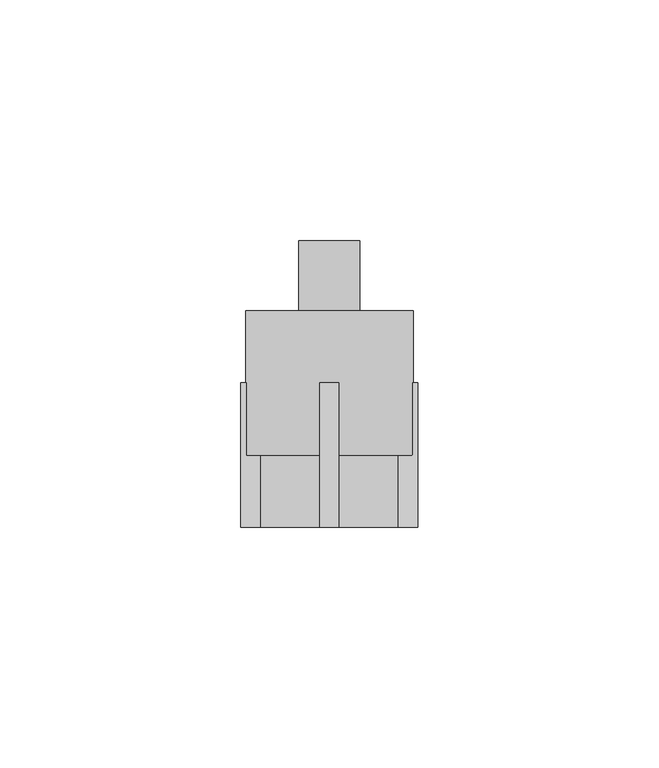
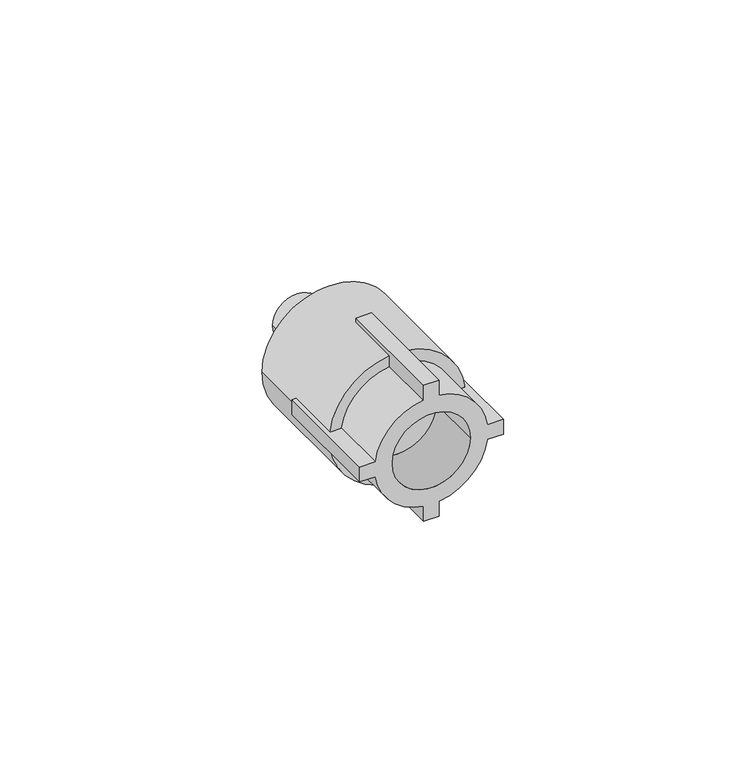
"""IFC4 building model written with IfcOpenShell, lengths in millimetres: pipe fitting geometry, EGB_VASEN_ PPR_Entronque rosca macho WXR101 : Entronque rosca macho WXR101."""

from ifc_helpers import new_model, si_unit, point, frame, origin, origin_2d, place, context, project, spatial, polyline, circle_curve, trimmed, segment, composite_curve, outline, extrude, source, transform, mapped, element, save
from ifc_brep_helpers import plane_surface, cylinder_surface, revolved_surface, advanced_brep


def pipe_fitting_84b2c451(model_context):
    return source(origin(), model_context, "Body", "SolidModel", [
        advanced_brep(
        [(2.0, -15.0, 18.4), (-2.0, -15.0, 18.4), (-2.0, -15.0, 14.3614066), (-14.3614066, -15.0, 2.0), (-18.4, -15.0, 2.0), (-18.4, -15.0, -2.0), (-14.3614066, -15.0, -2.0), (-2.0, -15.0, -14.3614066), (-2.0, -15.0, -18.4), (2.0, -15.0, -18.4), (2.0, -15.0, -14.3614066), (14.3614066, -15.0, -2.0), (18.4, -15.0, -2.0), (18.4, -15.0, 2.0), (14.3614066, -15.0, 2.0), (2.0, -15.0, 14.3614066), (-10.0, -15.0, 0.0), (10.0, -15.0, 0.0), (-2.0, 15.0, 18.4), (2.0, 15.0, 18.4), (2.0, 15.0, 17.2846753), (-2.0, 15.0, 17.2846753), (2.0, 15.0, -18.4), (-2.0, 15.0, -18.4), (-2.0, 15.0, -17.2846753), (2.0, 15.0, -17.2846753), (18.4, 15.0, 2.0), (18.4, 15.0, -2.0), (17.2846753, 15.0, -2.0), (17.4, 15.0, 0.0), (17.2846753, 15.0, 2.0), (-18.4, 15.0, -2.0), (-18.4, 15.0, 2.0), (-17.2846753, 15.0, 2.0), (-17.4, 15.0, 0.0), (-17.2846753, 15.0, -2.0), (2.0, 0.0, 14.3614066), (2.0, 0.0, 17.2846753), (-2.0, 0.0, 17.2846753), (-2.0, 0.0, 14.3614066), (2.0, 0.0, -17.2846753), (2.0, 0.0, -14.3614066), (-2.0, 0.0, -14.3614066), (-2.0, 0.0, -17.2846753), (14.3614066, 0.0, -2.0), (17.2846753, 0.0, -2.0), (17.2846753, 0.0, 2.0), (14.3614066, 0.0, 2.0), (-17.2846753, 0.0, -2.0), (-14.3614066, 0.0, -2.0), (-14.3614066, 0.0, 2.0), (-17.2846753, 0.0, 2.0), (-10.0, 0.0, 0.0), (10.0, 0.0, 0.0), (-17.4, 30.0, 0.0), (17.4, 30.0, 0.0)],
        [
            (0, 1),
            (1, 2),
            (2, 3, circle_curve(frame((0.0, -15.0, 0.0), z_axis=(0.0, -1.0, 0.0), x_axis=(1.0, 0.0, 0.0)), 14.5)),
            (3, 4),
            (4, 5),
            (5, 6),
            (6, 7, circle_curve(frame((0.0, -15.0, 0.0), z_axis=(0.0, -1.0, 0.0), x_axis=(1.0, 0.0, 0.0)), 14.5)),
            (7, 8),
            (8, 9),
            (9, 10),
            (10, 11, circle_curve(frame((0.0, -15.0, 0.0), z_axis=(0.0, -1.0, 0.0), x_axis=(1.0, 0.0, 0.0)), 14.5)),
            (11, 12),
            (12, 13),
            (13, 14),
            (14, 15, circle_curve(frame((0.0, -15.0, 0.0), z_axis=(0.0, -1.0, 0.0), x_axis=(1.0, 0.0, 0.0)), 14.5)),
            (15, 0),
            (16, 17, circle_curve(frame((0.0, -15.0, 0.0), z_axis=(0.0, 1.0, 0.0), x_axis=(1.0, 0.0, 0.0)), 10.0)),
            (17, 16, circle_curve(frame((0.0, -15.0, 0.0), z_axis=(0.0, 1.0, 0.0), x_axis=(1.0, 0.0, 0.0)), 10.0)),
            (18, 19),
            (19, 20),
            (20, 21, circle_curve(frame((0.0, 15.0, 0.0), z_axis=(0.0, -1.0, 0.0), x_axis=(1.0, 0.0, 0.0)), 17.4)),
            (21, 18),
            (22, 23),
            (23, 24),
            (24, 25, circle_curve(frame((0.0, 15.0, 0.0), z_axis=(0.0, -1.0, 0.0), x_axis=(1.0, 0.0, 0.0)), 17.4)),
            (25, 22),
            (26, 27),
            (27, 28),
            (28, 29, circle_curve(frame((0.0, 15.0, 0.0), z_axis=(0.0, -1.0, 0.0), x_axis=(1.0, 0.0, 0.0)), 17.4)),
            (29, 30, circle_curve(frame((0.0, 15.0, 0.0), z_axis=(0.0, -1.0, 0.0), x_axis=(1.0, 0.0, 0.0)), 17.4)),
            (30, 26),
            (31, 32),
            (32, 33),
            (33, 34, circle_curve(frame((0.0, 15.0, 0.0), z_axis=(0.0, -1.0, 0.0), x_axis=(1.0, 0.0, 0.0)), 17.4)),
            (34, 35, circle_curve(frame((0.0, 15.0, 0.0), z_axis=(0.0, -1.0, 0.0), x_axis=(1.0, 0.0, 0.0)), 17.4)),
            (35, 31),
            (19, 0),
            (15, 36),
            (36, 37),
            (37, 20),
            (18, 1),
            (21, 38),
            (38, 39),
            (39, 2),
            (8, 23),
            (22, 9),
            (25, 40),
            (40, 41),
            (41, 10),
            (7, 42),
            (42, 43),
            (43, 24),
            (27, 12),
            (11, 44),
            (44, 45),
            (45, 28),
            (26, 13),
            (30, 46),
            (46, 47),
            (47, 14),
            (5, 31),
            (35, 48),
            (48, 49),
            (49, 6),
            (32, 4),
            (3, 50),
            (50, 51),
            (51, 33),
            (49, 42, circle_curve(frame((0.0, 0.0, 0.0), z_axis=(0.0, -1.0, 0.0), x_axis=(1.0, 0.0, 0.0)), 14.5)),
            (41, 44, circle_curve(frame((0.0, 0.0, 0.0), z_axis=(0.0, -1.0, 0.0), x_axis=(1.0, 0.0, 0.0)), 14.5)),
            (39, 50, circle_curve(frame((0.0, 0.0, 0.0), z_axis=(0.0, -1.0, 0.0), x_axis=(1.0, 0.0, 0.0)), 14.5)),
            (47, 36, circle_curve(frame((0.0, 0.0, 0.0), z_axis=(0.0, -1.0, 0.0), x_axis=(1.0, 0.0, 0.0)), 14.5)),
            (16, 52),
            (52, 53, circle_curve(frame((0.0, 0.0, 0.0), z_axis=(0.0, 1.0, 0.0), x_axis=(1.0, 0.0, 0.0)), 10.0)),
            (53, 17),
            (53, 52, circle_curve(frame((0.0, 0.0, 0.0), z_axis=(0.0, 1.0, 0.0), x_axis=(1.0, 0.0, 0.0)), 10.0)),
            (40, 45, circle_curve(frame((0.0, 0.0, 0.0), z_axis=(0.0, -1.0, 0.0), x_axis=(1.0, 0.0, 0.0)), 17.4)),
            (48, 43, circle_curve(frame((0.0, 0.0, 0.0), z_axis=(0.0, -1.0, 0.0), x_axis=(1.0, 0.0, 0.0)), 17.4)),
            (46, 37, circle_curve(frame((0.0, 0.0, 0.0), z_axis=(0.0, -1.0, 0.0), x_axis=(1.0, 0.0, 0.0)), 17.4)),
            (38, 51, circle_curve(frame((0.0, 0.0, 0.0), z_axis=(0.0, -1.0, 0.0), x_axis=(1.0, 0.0, 0.0)), 17.4)),
            (54, 55, circle_curve(frame((0.0, 30.0, 0.0), z_axis=(0.0, 1.0, 0.0), x_axis=(1.0, 0.0, 0.0)), 17.4)),
            (55, 54, circle_curve(frame((0.0, 30.0, 0.0), z_axis=(0.0, 1.0, 0.0), x_axis=(1.0, 0.0, 0.0)), 17.4)),
            (55, 29),
            (34, 54),
        ],
        [
            plane_surface(frame((0.0, -15.0, 0.0), z_axis=(0.0, -1.0, 0.0), x_axis=(0.0, 0.0, 1.0))),
            plane_surface(frame((0.0, 15.0, 0.0), z_axis=(0.0, 1.0, 0.0), x_axis=(0.0, 0.0, 1.0))),
            plane_surface(frame((2.0, -15.0, 13.5), z_axis=(1.0, 0.0, 0.0), x_axis=(0.0, 1.0, 0.0))),
            plane_surface(frame((2.0, -15.0, 18.4), z_axis=(0.0, 0.0, 1.0), x_axis=(0.0, 1.0, 0.0))),
            plane_surface(frame((-2.0, -15.0, 18.4), z_axis=(-1.0, 0.0, 0.0), x_axis=(0.0, 1.0, 0.0))),
            plane_surface(frame((-2.0, -15.0, -18.4), z_axis=(0.0, 0.0, -1.0), x_axis=(0.0, 1.0, 0.0))),
            plane_surface(frame((2.0, -15.0, -18.4), z_axis=(1.0, 0.0, 0.0), x_axis=(0.0, 1.0, 0.0))),
            plane_surface(frame((-2.0, -15.0, -13.5), z_axis=(-1.0, 0.0, 0.0), x_axis=(0.0, 1.0, 0.0))),
            plane_surface(frame((13.5, -15.0, -2.0), z_axis=(0.0, 0.0, -1.0), x_axis=(0.0, 1.0, 0.0))),
            plane_surface(frame((18.4, -15.0, -2.0), z_axis=(1.0, 0.0, 0.0), x_axis=(0.0, 1.0, 0.0))),
            plane_surface(frame((18.4, -15.0, 2.0), z_axis=(0.0, 0.0, 1.0), x_axis=(0.0, 1.0, 0.0))),
            plane_surface(frame((-18.4, -15.0, -2.0), z_axis=(0.0, 0.0, -1.0), x_axis=(0.0, 1.0, 0.0))),
            plane_surface(frame((-13.5, -15.0, 2.0), z_axis=(0.0, 0.0, 1.0), x_axis=(0.0, 1.0, 0.0))),
            plane_surface(frame((-18.4, -15.0, 2.0), z_axis=(-1.0, 0.0, 0.0), x_axis=(0.0, 1.0, 0.0))),
            cylinder_surface(frame((0.0, 0.0, 0.0), z_axis=(0.0, -1.0, 0.0), x_axis=(1.0, 0.0, 0.0)), 14.5),
            revolved_surface(polyline([(10.0, 0.0, 0.0), (10.0, -15.0, 0.0)]), (0.0, 0.0, 0.0), (0.0, 1.0, 0.0)),
            plane_surface(frame((17.4, 0.0, 0.0), z_axis=(0.0, -1.0, 0.0), x_axis=(0.0, 0.0, 1.0))),
            plane_surface(frame((17.4, 30.0, 0.0), z_axis=(0.0, 1.0, 0.0), x_axis=(0.0, 0.0, -1.0))),
            cylinder_surface(frame((0.0, 30.0, 0.0), z_axis=(0.0, -1.0, 0.0), x_axis=(1.0, 0.0, 0.0)), 17.4),
        ],
        [
            (0, [[1, 2, 3, 4, 5, 6, 7, 8, 9, 10, 11, 12, 13, 14, 15, 16], [17, 18]]),
            (1, [[19, 20, 21, 22]]),
            (1, [[23, 24, 25, 26]]),
            (1, [[27, 28, 29, 30, 31]]),
            (1, [[32, 33, 34, 35, 36]]),
            (2, [[37, -16, 38, 39, 40, -20]]),
            (3, [[-1, -37, -19, 41]]),
            (4, [[-41, -22, 42, 43, 44, -2]]),
            (5, [[-9, 45, -23, 46]]),
            (6, [[-46, -26, 47, 48, 49, -10]]),
            (7, [[-45, -8, 50, 51, 52, -24]]),
            (8, [[53, -12, 54, 55, 56, -28]]),
            (9, [[-13, -53, -27, 57]]),
            (10, [[-57, -31, 58, 59, 60, -14]]),
            (11, [[61, -36, 62, 63, 64, -6]]),
            (12, [[65, -4, 66, 67, 68, -33]]),
            (13, [[-5, -65, -32, -61]]),
            (14, [[-7, -64, 69, -50]]),
            (14, [[-11, -49, 70, -54]]),
            (14, [[-3, -44, 71, -66]]),
            (14, [[-15, -60, 72, -38]]),
            (15, [[-17, 73, 74, 75]]),
            (15, [[-18, -75, 76, -73]]),
            (16, [[-74, -76]]),
            (16, [[77, -55, -70, -48]]),
            (16, [[78, -51, -69, -63]]),
            (16, [[79, -39, -72, -59]]),
            (16, [[80, -67, -71, -43]]),
            (17, [[81, 82]]),
            (18, [[-82, 83, -29, -56, -77, -47, -25, -52, -78, -62, -35, 84]]),
            (18, [[-81, -84, -34, -68, -80, -42, -21, -40, -79, -58, -30, -83]]),
        ],
    ),
        extrude(outline(composite_curve([segment(trimmed(circle_curve(origin_2d(), 6.35), [point((0.0, -6.35))], [point((0.0, 6.35))], False, "CARTESIAN"), True, "CONTINUOUS"), segment(trimmed(circle_curve(origin_2d(), 6.35), [point((0.0, 6.35))], [point((0.0, -6.35))], False, "CARTESIAN"), True, "CONTINUOUS")], self_intersect=False)), frame((0.0, 15.0, 0.0), z_axis=(0.0, 1.0, 0.0), x_axis=(0.0, 0.0, 1.0)), (0.0, 0.0, 1.0), 29.5),
    ])


if __name__ == "__main__":
    model = new_model("IFC4")
    model_context = context("Model", 3, world=origin())
    ifc_project = project(units=[si_unit("LENGTHUNIT", "METRE", prefix="MILLI")], contexts=[model_context])
    site = spatial("IfcSite", under=ifc_project)
    building = spatial("IfcBuilding", under=site)
    placement = place(None, origin())
    pipe_fitting_shape = pipe_fitting_84b2c451(model_context)
    element("IfcPipeFitting", 1, ObjectType="EGB_VASEN_ PPR_Entronque rosca macho WXR101 : Entronque rosca macho WXR101", at=placement, inside=building, context=model_context, shape_type="MappedRepresentation", body=[
        mapped(pipe_fitting_shape, transform((0.0, 0.0, 0.0), x_axis=(1.0, 0.0, 0.0), y_axis=(0.0, 1.0, 0.0), z_axis=(0.0, 0.0, 1.0))),
    ])
    save(model, "model.ifc")
